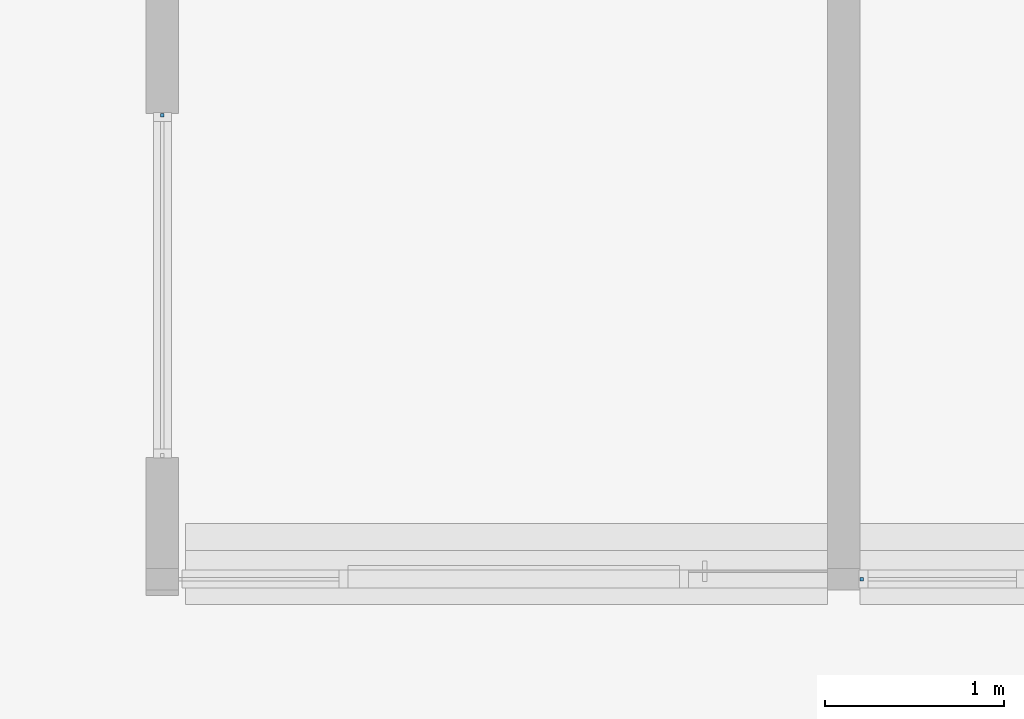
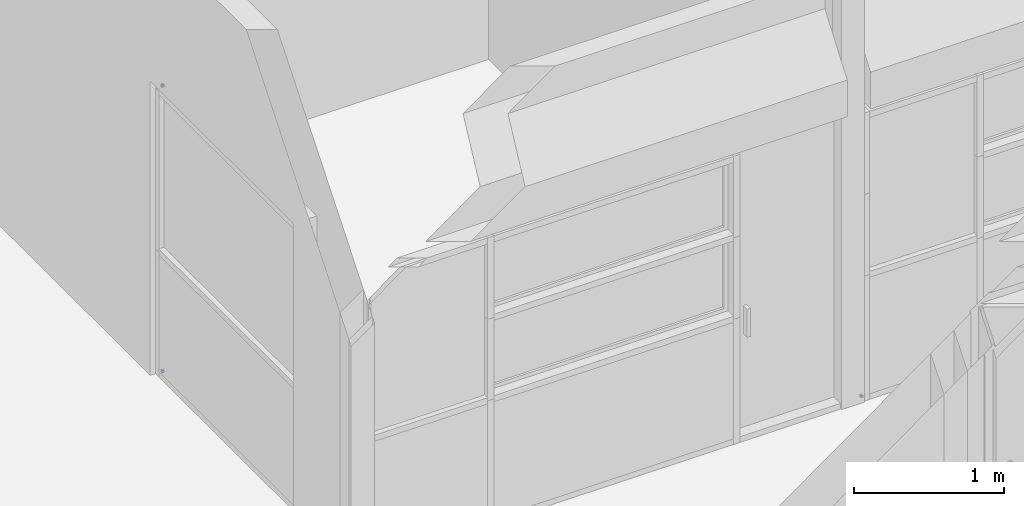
# One storey, part 57 of 117: 3 plates, 2 elements without a shape of their own.
"""IFC4 building model written with IfcOpenShell, lengths in metres."""

from ifc_helpers import new_model, entity, si_unit, converted_unit, derived_unit, direction, frame, origin, place, context, subcontext, project, spatial, indexed_curve, outline, extrude, source, transform, mapped, material, type_object, type_shapes, element, aggregate, save


model = new_model("IFC4")

# Units and contexts
model_context = context("Model", 3, precision=1e-05, world=origin(), true_north=direction((6.123031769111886e-17, 1.0)))
body_context = subcontext(model_context, "Body", "Model", "MODEL_VIEW")
ifc_project = project(units=[si_unit("LENGTHUNIT", "METRE"), si_unit("AREAUNIT", "SQUARE_METRE"), si_unit("VOLUMEUNIT", "CUBIC_METRE"), converted_unit("PLANEANGLEUNIT", "DEGREE", entity("IfcRatioMeasure", 0.017453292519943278), si_unit("PLANEANGLEUNIT", "RADIAN"), dimensions=[0, 0, 0, 0, 0, 0, 0]), si_unit("MASSUNIT", "GRAM", prefix="KILO"), derived_unit("MASSDENSITYUNIT", [(si_unit("MASSUNIT", "GRAM", prefix="KILO"), 1), (si_unit("LENGTHUNIT", "METRE"), -3)]), derived_unit("MOMENTOFINERTIAUNIT", [(si_unit("LENGTHUNIT", "METRE"), 4)]), si_unit("TIMEUNIT", "SECOND"), si_unit("FREQUENCYUNIT", "HERTZ"), si_unit("THERMODYNAMICTEMPERATUREUNIT", "DEGREE_CELSIUS"), derived_unit("THERMALTRANSMITTANCEUNIT", [(si_unit("MASSUNIT", "GRAM", prefix="KILO"), 1), (si_unit("THERMODYNAMICTEMPERATUREUNIT", "KELVIN"), -1), (si_unit("TIMEUNIT", "SECOND"), -3)]), derived_unit("VOLUMETRICFLOWRATEUNIT", [(si_unit("LENGTHUNIT", "METRE"), 3), (si_unit("TIMEUNIT", "SECOND"), -1)]), derived_unit("MASSFLOWRATEUNIT", [(si_unit("MASSUNIT", "GRAM", prefix="KILO"), 1), (si_unit("TIMEUNIT", "SECOND"), -1)]), derived_unit("ROTATIONALFREQUENCYUNIT", [(si_unit("TIMEUNIT", "SECOND"), -1)]), si_unit("ELECTRICCURRENTUNIT", "AMPERE"), si_unit("ELECTRICVOLTAGEUNIT", "VOLT"), si_unit("POWERUNIT", "WATT"), si_unit("FORCEUNIT", "NEWTON", prefix="KILO"), si_unit("ILLUMINANCEUNIT", "LUX"), si_unit("LUMINOUSFLUXUNIT", "LUMEN"), si_unit("LUMINOUSINTENSITYUNIT", "CANDELA"), derived_unit("USERDEFINED", [(si_unit("MASSUNIT", "GRAM", prefix="KILO"), -1), (si_unit("LENGTHUNIT", "METRE"), -2), (si_unit("TIMEUNIT", "SECOND"), 3), (si_unit("LUMINOUSFLUXUNIT", "LUMEN"), 1)]), derived_unit("SOUNDPOWERUNIT", [(si_unit("MASSUNIT", "GRAM", prefix="KILO"), 1), (si_unit("LENGTHUNIT", "METRE"), 2), (si_unit("TIMEUNIT", "SECOND"), -3)]), derived_unit("SOUNDPRESSUREUNIT", [(si_unit("MASSUNIT", "GRAM", prefix="KILO"), 1), (si_unit("LENGTHUNIT", "METRE"), -1), (si_unit("TIMEUNIT", "SECOND"), -2)]), derived_unit("LINEARVELOCITYUNIT", [(si_unit("LENGTHUNIT", "METRE"), 1), (si_unit("TIMEUNIT", "SECOND"), -1)]), si_unit("PRESSUREUNIT", "PASCAL"), derived_unit("USERDEFINED", [(si_unit("LENGTHUNIT", "METRE"), -2), (si_unit("MASSUNIT", "GRAM", prefix="KILO"), 1), (si_unit("TIMEUNIT", "SECOND"), -2)]), derived_unit("LINEARFORCEUNIT", [(si_unit("MASSUNIT", "GRAM", prefix="KILO"), 1), (si_unit("LENGTHUNIT", "METRE"), 1), (si_unit("TIMEUNIT", "SECOND"), -2), (si_unit("LENGTHUNIT", "METRE"), -1)]), derived_unit("PLANARFORCEUNIT", [(si_unit("MASSUNIT", "GRAM", prefix="KILO"), 1), (si_unit("LENGTHUNIT", "METRE"), 1), (si_unit("TIMEUNIT", "SECOND"), -2), (si_unit("LENGTHUNIT", "METRE"), -2)])], contexts=[model_context])

# Site, building, storey
site_placement = place(None, origin())
site = spatial("IfcSite", under=ifc_project, at=site_placement, Name="Superficie", CompositionType="ELEMENT")
building_placement = place(site_placement, origin())
building = spatial("IfcBuilding", under=site, at=building_placement, CompositionType="ELEMENT")
storey_placement = place(building_placement, origin())
storey = spatial("IfcBuildingStorey", under=building, at=storey_placement, Name="Nivel 0", CompositionType="ELEMENT", Elevation=0.0)

# Curtain wall, plates
curtain_wall_type = type_object("IfcCurtainWallType", Name="Muro cortina:Muro cortina - simple", PredefinedType="NOTDEFINED")
curtain_wall_1_placement = place(storey_placement, origin())
curtain_wall_1 = element("IfcCurtainWall", 1, at=curtain_wall_1_placement, inside=storey, type_object=curtain_wall_type, Name="Muro cortina:Muro cortina - simple", ObjectType="Muro cortina:Muro cortina - simple", PredefinedType="NOTDEFINED")
ifc_material = material(Name="Cristal", Category="Vidrio")
plate_type = type_object("IfcPlateType", Name="Panel de sistema:Acristalado", PredefinedType="CURTAIN_PANEL", material=ifc_material)
shared_shape = source(origin(), body_context, "Body", "SweptSolid", [
    extrude(outline(indexed_curve([(-0.01, -0.009999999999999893), (0.01, -0.009999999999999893), (0.01, 0.009999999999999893), (-0.01, 0.009999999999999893), (-0.01, -0.009999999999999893)], self_intersect=False)), frame((0.0, 0.0, 0.0), z_axis=(0.0, 0.0, 1.0), x_axis=(0.0, 1.0, 0.0)), (0.0, 0.0, 1.0), 0.02000000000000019),
])
type_shapes(plate_type, [shared_shape])
plate_1_placement = place(curtain_wall_1_placement, frame((-15.413200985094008, 8.303063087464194, 0.0), z_axis=(0.0, 0.0, 1.0), x_axis=(0.0, -1.0, 0.0)))
plate_1 = element("IfcPlate", 2, at=plate_1_placement, type_object=plate_type, material=ifc_material, Name="Panel de sistema:Acristalado", ObjectType="Panel de sistema:Acristalado", PredefinedType="CURTAIN_PANEL", context=body_context, shape_type="MappedRepresentation", body=[
    mapped(shared_shape, transform((0.0, 0.0, 0.0), scale=1.0)),
])
plate_2_placement = place(curtain_wall_1_placement, frame((-15.413200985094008, 8.303063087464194, 2.33), z_axis=(0.0, 0.0, 1.0), x_axis=(0.0, -1.0, 0.0)))
plate_2 = element("IfcPlate", 3, at=plate_2_placement, type_object=plate_type, material=ifc_material, Name="Panel de sistema:Acristalado", ObjectType="Panel de sistema:Acristalado", PredefinedType="CURTAIN_PANEL", context=body_context, shape_type="MappedRepresentation", body=[
    mapped(shared_shape, transform((0.0, 0.0, 0.0), scale=1.0)),
])
aggregate(curtain_wall_1, [plate_1, plate_2])

# Curtain wall, plate
curtain_wall_2_placement = place(storey_placement, origin())
curtain_wall_2 = element("IfcCurtainWall", 4, at=curtain_wall_2_placement, inside=storey, type_object=curtain_wall_type, Name="Muro cortina:Muro cortina - simple", ObjectType="Muro cortina:Muro cortina - simple", PredefinedType="NOTDEFINED")
plate_3_placement = place(curtain_wall_2_placement, frame((-11.513200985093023, 5.715829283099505, 0.0)))
plate_3 = element("IfcPlate", 5, at=plate_3_placement, type_object=plate_type, material=ifc_material, Name="Panel de sistema:Acristalado", ObjectType="Panel de sistema:Acristalado", PredefinedType="CURTAIN_PANEL", context=body_context, shape_type="MappedRepresentation", body=[
    mapped(shared_shape, transform((0.0, 0.0, 0.0), scale=1.0)),
])
aggregate(curtain_wall_2, [plate_3])

save(model, "model.ifc")
